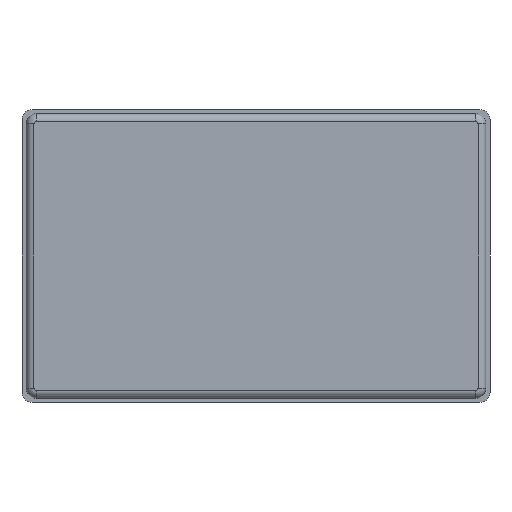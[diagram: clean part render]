
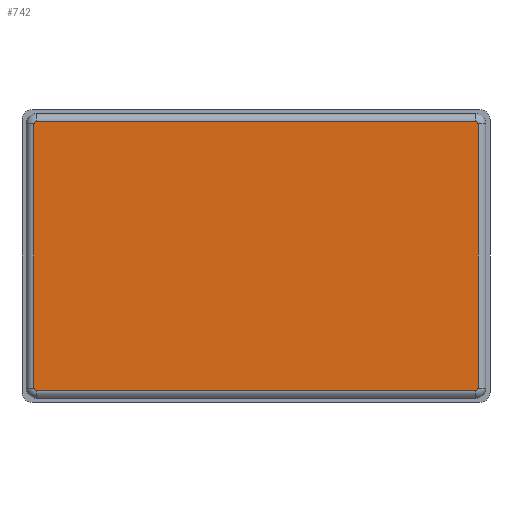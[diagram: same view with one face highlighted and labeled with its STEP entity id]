
A CAD part, front view. The second image highlights one B-rep face of the part: STEP entity #742.
In plain terms, the highlighted planar face has unit normal (0, -1, 0).
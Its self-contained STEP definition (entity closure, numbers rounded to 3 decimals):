
#2 = CIRCLE ( 'NONE', #315, 0.5 ) ;
#5 = DIRECTION ( 'NONE',  ( 0., 0., 1. ) ) ;
#31 = LINE ( 'NONE', #1105, #885 ) ;
#41 = CIRCLE ( 'NONE', #1173, 0.5 ) ;
#45 = VECTOR ( 'NONE', #492, 1000. ) ;
#65 = VERTEX_POINT ( 'NONE', #598 ) ;
#68 = AXIS2_PLACEMENT_3D ( 'NONE', #982, #1486, #723 ) ;
#98 = EDGE_CURVE ( 'NONE', #1149, #1455, #367, .T. ) ;
#121 = CARTESIAN_POINT ( 'NONE',  ( -42.4, 0., -26. ) ) ;
#124 = DIRECTION ( 'NONE',  ( 0., -1., 0. ) ) ;
#129 = CARTESIAN_POINT ( 'NONE',  ( -42.4, 0., 26. ) ) ;
#160 = LINE ( 'NONE', #809, #1480 ) ;
#174 = DIRECTION ( 'NONE',  ( 0., 0., 1. ) ) ;
#194 = EDGE_CURVE ( 'NONE', #344, #1149, #290, .T. ) ;
#235 = ORIENTED_EDGE ( 'NONE', *, *, #848, .T. ) ;
#275 = ORIENTED_EDGE ( 'NONE', *, *, #973, .T. ) ;
#278 = EDGE_CURVE ( 'NONE', #1455, #314, #1369, .T. ) ;
#279 = CARTESIAN_POINT ( 'NONE',  ( -42.9, 0., 25.5 ) ) ;
#290 = LINE ( 'NONE', #1633, #586 ) ;
#314 = VERTEX_POINT ( 'NONE', #509 ) ;
#315 = AXIS2_PLACEMENT_3D ( 'NONE', #895, #124, #1031 ) ;
#344 = VERTEX_POINT ( 'NONE', #555 ) ;
#352 = DIRECTION ( 'NONE',  ( -1., 0., 0. ) ) ;
#367 = CIRCLE ( 'NONE', #849, 0.5 ) ;
#381 = VERTEX_POINT ( 'NONE', #687 ) ;
#492 = DIRECTION ( 'NONE',  ( 0., 0., -1. ) ) ;
#509 = CARTESIAN_POINT ( 'NONE',  ( -42.9, 0., -25.5 ) ) ;
#521 = ORIENTED_EDGE ( 'NONE', *, *, #534, .T. ) ;
#534 = EDGE_CURVE ( 'NONE', #314, #1361, #2, .T. ) ;
#551 = DIRECTION ( 'NONE',  ( 0., -1., 0. ) ) ;
#555 = CARTESIAN_POINT ( 'NONE',  ( 42.4, 0., 26. ) ) ;
#564 = AXIS2_PLACEMENT_3D ( 'NONE', #1332, #551, #1448 ) ;
#582 = FACE_OUTER_BOUND ( 'NONE', #1522, .T. ) ;
#584 = PLANE ( 'NONE',  #68 ) ;
#586 = VECTOR ( 'NONE', #352, 1000. ) ;
#591 = DIRECTION ( 'NONE',  ( 1., 0., 0. ) ) ;
#598 = CARTESIAN_POINT ( 'NONE',  ( 42.4, 0., -26. ) ) ;
#687 = CARTESIAN_POINT ( 'NONE',  ( 42.9, 0., -25.5 ) ) ;
#723 = DIRECTION ( 'NONE',  ( 0., 0., 1. ) ) ;
#742 = ADVANCED_FACE ( 'NONE', ( #582 ), #584, .F. ) ;
#757 = EDGE_CURVE ( 'NONE', #1361, #65, #31, .T. ) ;
#772 = DIRECTION ( 'NONE',  ( 0., -1., 0. ) ) ;
#806 = CIRCLE ( 'NONE', #564, 0.5 ) ;
#809 = CARTESIAN_POINT ( 'NONE',  ( 42.9, 0., 25.5 ) ) ;
#848 = EDGE_CURVE ( 'NONE', #65, #381, #806, .T. ) ;
#849 = AXIS2_PLACEMENT_3D ( 'NONE', #953, #1215, #1599 ) ;
#851 = VERTEX_POINT ( 'NONE', #1218 ) ;
#872 = EDGE_CURVE ( 'NONE', #381, #851, #160, .T. ) ;
#885 = VECTOR ( 'NONE', #591, 1000. ) ;
#895 = CARTESIAN_POINT ( 'NONE',  ( -42.4, 0., -25.5 ) ) ;
#953 = CARTESIAN_POINT ( 'NONE',  ( -42.4, 0., 25.5 ) ) ;
#973 = EDGE_CURVE ( 'NONE', #851, #344, #41, .T. ) ;
#982 = CARTESIAN_POINT ( 'NONE',  ( 0., 0., 0. ) ) ;
#986 = ORIENTED_EDGE ( 'NONE', *, *, #278, .T. ) ;
#1031 = DIRECTION ( 'NONE',  ( 0., 0., 1. ) ) ;
#1033 = ORIENTED_EDGE ( 'NONE', *, *, #872, .T. ) ;
#1081 = ORIENTED_EDGE ( 'NONE', *, *, #98, .T. ) ;
#1098 = ORIENTED_EDGE ( 'NONE', *, *, #757, .T. ) ;
#1105 = CARTESIAN_POINT ( 'NONE',  ( 42.4, 0., -26. ) ) ;
#1149 = VERTEX_POINT ( 'NONE', #129 ) ;
#1173 = AXIS2_PLACEMENT_3D ( 'NONE', #1547, #772, #5 ) ;
#1215 = DIRECTION ( 'NONE',  ( 0., -1., 0. ) ) ;
#1218 = CARTESIAN_POINT ( 'NONE',  ( 42.9, 0., 25.5 ) ) ;
#1332 = CARTESIAN_POINT ( 'NONE',  ( 42.4, 0., -25.5 ) ) ;
#1361 = VERTEX_POINT ( 'NONE', #121 ) ;
#1369 = LINE ( 'NONE', #1399, #45 ) ;
#1399 = CARTESIAN_POINT ( 'NONE',  ( -42.9, 0., -25.5 ) ) ;
#1448 = DIRECTION ( 'NONE',  ( 0., 0., 1. ) ) ;
#1455 = VERTEX_POINT ( 'NONE', #279 ) ;
#1480 = VECTOR ( 'NONE', #174, 1000. ) ;
#1486 = DIRECTION ( 'NONE',  ( 0., 1., 0. ) ) ;
#1522 = EDGE_LOOP ( 'NONE', ( #1549, #1081, #986, #521, #1098, #235, #1033, #275 ) ) ;
#1547 = CARTESIAN_POINT ( 'NONE',  ( 42.4, 0., 25.5 ) ) ;
#1549 = ORIENTED_EDGE ( 'NONE', *, *, #194, .T. ) ;
#1599 = DIRECTION ( 'NONE',  ( 0., 0., 1. ) ) ;
#1633 = CARTESIAN_POINT ( 'NONE',  ( -42.4, 0., 26. ) ) ;
